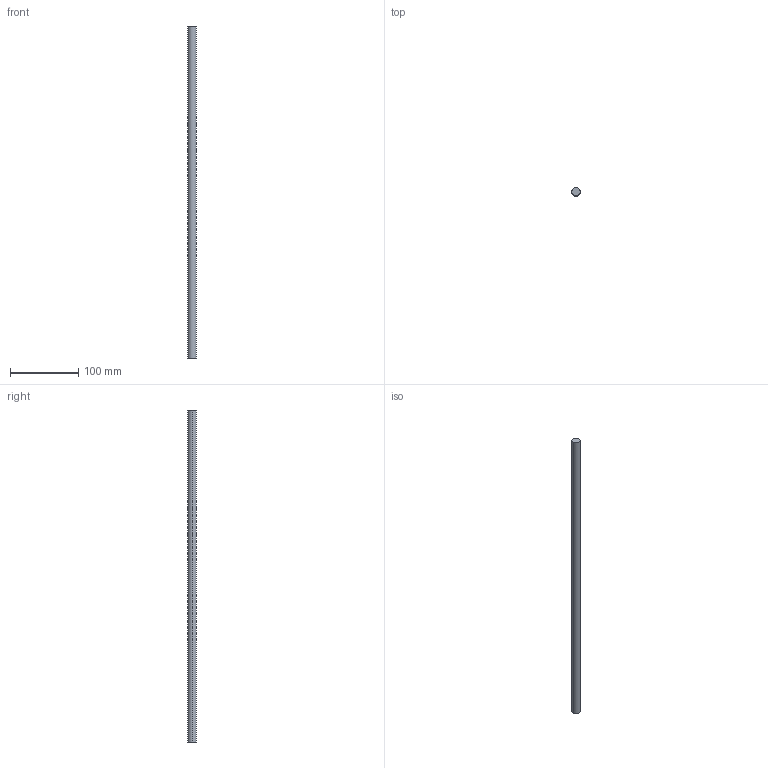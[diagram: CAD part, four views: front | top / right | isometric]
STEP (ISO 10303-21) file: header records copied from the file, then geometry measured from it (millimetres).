
FILE_DESCRIPTION (( 'STEP AP214' ), '1' );
FILE_NAME ('Innenschub H182 - S16_S17 - 600.step', '2010-09-07T14:55:58', ( 'grass' ), ( '' ), 'SwSTEP 2.0', 'SolidWorks 2010', '' );
FILE_SCHEMA (( 'AUTOMOTIVE_DESIGN' ));
Length unit declared in the file: millimetre
Products named in the file (1): Innenschub H182 - S16_S17 - 600
Bounding box: 12 x 12 x 487 mm (x, y, z)
Volume: 55078.4 mm3; surface area: 18585.7 mm2
Topology: 1 solids, 1 shells, 4 faces, 6 edges, 4 vertices
Faces by surface type: cylinder 2, plane 2
Entity records: 128 total; most frequent: DIRECTION 20, CARTESIAN_POINT 15, ORIENTED_EDGE 12, AXIS2_PLACEMENT_3D 9, EDGE_CURVE 6, ADVANCED_FACE 4, VERTEX_POINT 4, FACE_OUTER_BOUND 4
